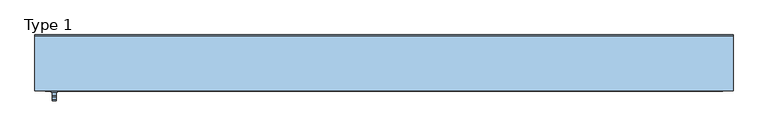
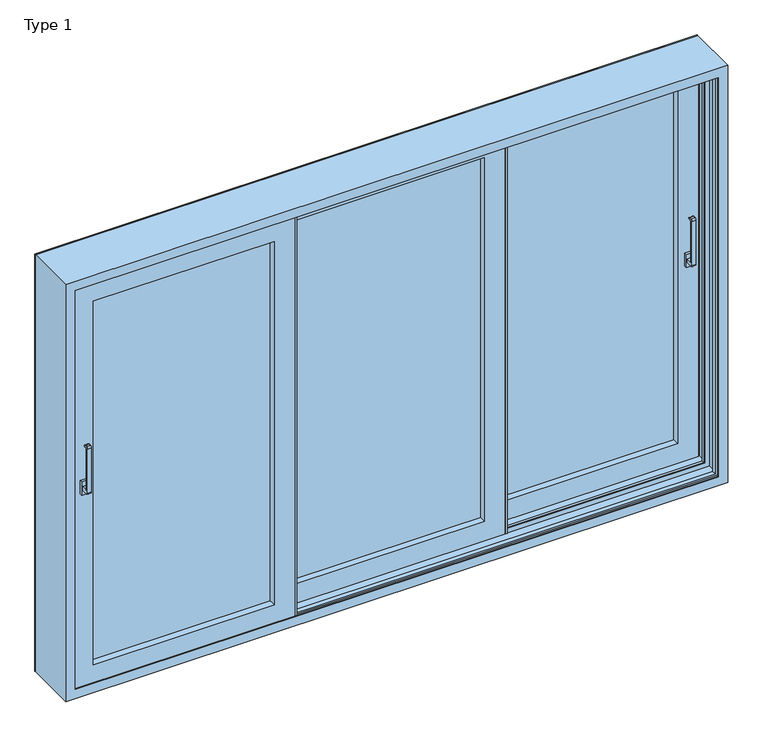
"""IFC4 building model written with IfcOpenShell, lengths in millimetres: window geometry, ETEM_ES70_Triple_Lift_Sliding : Type 1."""

from ifc_helpers import new_model, si_unit, point, frame, frame_2d, origin, place, context, project, spatial, polyline, circle_curve, trimmed, segment, composite_curve, outline, extrude, faceted_brep, source, transform, mapped, element, save


def type_1_9b2b722f(model_context):
    return source(origin(), model_context, "Body", "SolidModel", [
        extrude(outline(composite_curve([segment(polyline([(38.5008815, 1090.0), (6.9271967, 1090.0)]), True, "CONTINUOUS"), segment(trimmed(circle_curve(frame_2d((6.9271967, 1098.4263152)), 8.4263152), [point((6.9271967, 1090.0))], [point((-1.4991185, 1098.4263152))], False, "CARTESIAN"), True, "CONTINUOUS"), segment(polyline([(-1.4991185, 1098.4263152), (-1.4991185, 1331.5736848)]), True, "CONTINUOUS"), segment(trimmed(circle_curve(frame_2d((6.9271967, 1331.5736848)), 8.4263152), [point((-1.4991185, 1331.5736848))], [point((6.9271967, 1340.0))], False, "CARTESIAN"), True, "CONTINUOUS"), segment(polyline([(6.9271967, 1340.0), (18.5008815, 1340.0)]), True, "CONTINUOUS"), segment(trimmed(circle_curve(frame_2d((18.5008815, 1335.0)), 5.0), [point((18.5008815, 1340.0))], [point((18.5008815, 1330.0))], False, "CARTESIAN"), True, "CONTINUOUS"), segment(polyline([(18.5008815, 1330.0), (12.0364154, 1330.0)]), True, "CONTINUOUS"), segment(trimmed(circle_curve(frame_2d((12.0364154, 1326.4644661)), 3.5355339), [point((12.0364154, 1330.0))], [point((8.5008815, 1326.4644661))], True, "CARTESIAN"), True, "CONTINUOUS"), segment(polyline([(8.5008815, 1326.4644661), (8.5008815, 1113.5355339)]), True, "CONTINUOUS"), segment(trimmed(circle_curve(frame_2d((12.0364154, 1113.5355339)), 3.5355339), [point((8.5008815, 1113.5355339))], [point((12.0364154, 1110.0))], True, "CARTESIAN"), True, "CONTINUOUS"), segment(polyline([(12.0364154, 1110.0), (38.5008815, 1110.0), (38.5008815, 1090.0)]), True, "CONTINUOUS")], self_intersect=False)), frame((1548.5, 0.0, 0.0), z_axis=(1.0, 0.0, 0.0), x_axis=(0.0, 1.0, 0.0)), (0.0, 0.0, 1.0), 20.0),
        extrude(outline(polyline([(1543.5, 38.5008815), (1543.5, 51.5008815), (1573.5, 51.5008815), (1573.5, 38.5008815), (1543.5, 38.5008815)])), frame((0.0, 0.0, 1065.0), z_axis=(0.0, 0.0, 1.0), x_axis=(1.0, 0.0, 0.0)), (0.0, 0.0, 1.0), 70.0),
        extrude(outline(composite_curve([segment(polyline([(-141.4991185, 1090.0), (-173.0728033, 1090.0)]), True, "CONTINUOUS"), segment(trimmed(circle_curve(frame_2d((-173.0728033, 1098.4263152)), 8.4263152), [point((-173.0728033, 1090.0))], [point((-181.4991185, 1098.4263152))], False, "CARTESIAN"), True, "CONTINUOUS"), segment(polyline([(-181.4991185, 1098.4263152), (-181.4991185, 1331.5736848)]), True, "CONTINUOUS"), segment(trimmed(circle_curve(frame_2d((-173.0728033, 1331.5736848)), 8.4263152), [point((-181.4991185, 1331.5736848))], [point((-173.0728033, 1340.0))], False, "CARTESIAN"), True, "CONTINUOUS"), segment(polyline([(-173.0728033, 1340.0), (-161.4991185, 1340.0)]), True, "CONTINUOUS"), segment(trimmed(circle_curve(frame_2d((-161.4991185, 1335.0)), 5.0), [point((-161.4991185, 1340.0))], [point((-161.4991185, 1330.0))], False, "CARTESIAN"), True, "CONTINUOUS"), segment(polyline([(-161.4991185, 1330.0), (-167.9635846, 1330.0)]), True, "CONTINUOUS"), segment(trimmed(circle_curve(frame_2d((-167.9635846, 1326.4644661)), 3.5355339), [point((-167.9635846, 1330.0))], [point((-171.4991185, 1326.4644661))], True, "CARTESIAN"), True, "CONTINUOUS"), segment(polyline([(-171.4991185, 1326.4644661), (-171.4991185, 1113.5355339)]), True, "CONTINUOUS"), segment(trimmed(circle_curve(frame_2d((-167.9635846, 1113.5355339)), 3.5355339), [point((-171.4991185, 1113.5355339))], [point((-167.9635846, 1110.0))], True, "CARTESIAN"), True, "CONTINUOUS"), segment(polyline([(-167.9635846, 1110.0), (-141.4991185, 1110.0), (-141.4991185, 1090.0)]), True, "CONTINUOUS")], self_intersect=False)), frame((-1568.5, 0.0, 0.0), z_axis=(1.0, 0.0, 0.0), x_axis=(0.0, 1.0, 0.0)), (0.0, 0.0, 1.0), 20.0),
        extrude(outline(polyline([(-1573.5, -141.4991185), (-1573.5, -128.4991185), (-1543.5, -128.4991185), (-1543.5, -141.4991185), (-1573.5, -141.4991185)])), frame((0.0, 0.0, 1065.0), z_axis=(0.0, 0.0, 1.0), x_axis=(1.0, 0.0, 0.0)), (0.0, 0.0, 1.0), 70.0),
        faceted_brep([(1650.0, 122.9, 2200.0), (1650.0, -135.0998732, 2200.0), (1650.0, -135.0998732, 0.0), (1650.0, 122.9, 0.0), (-1650.0, -135.0998732, 2200.0), (-1650.0, -135.0998732, 0.0), (1602.0, -135.0998732, 48.0), (-1602.0, -135.0998732, 48.0), (-1602.0, -135.0998732, 2152.0), (1602.0, -135.0998732, 2152.0), (-1650.0, 122.9, 0.0), (-1650.0, 122.9, 2200.0), (1633.7, 122.9, 2183.7), (-1633.7, 122.9, 2183.7), (-1633.7, 122.9, 16.3), (1633.7, 122.9, 16.3), (1633.7, 91.0, 2183.7), (1633.7, 91.0, 16.3), (-1633.7, 91.0, 16.3), (-1633.7, 91.0, 2183.7), (1610.0, 91.0, 2160.0), (-1610.0, 91.0, 2160.0), (-1610.0, 91.0, 40.0), (1610.0, 91.0, 40.0), (1610.0, 105.0, 2160.0), (1610.0, 105.0, 40.0), (-1610.0, 105.0, 40.0), (-1610.0, 105.0, 2160.0), (1602.0, 105.0, 2152.0), (-1602.0, 105.0, 2152.0), (-1602.0, 105.0, 48.0), (1602.0, 105.0, 48.0), (1602.0, 82.0, 2152.0), (1602.0, 82.0, 48.0), (-1602.0, 82.0, 48.0), (1633.7, 82.0, 2183.7), (-1633.7, 82.0, 2183.7), (-1633.7, 82.0, 16.3), (1633.7, 82.0, 16.3), (-1602.0, 82.0, 2152.0), (1633.7, -88.9998732, 2183.7), (1633.7, -7.9998732, 2183.7), (1633.7, -7.9998732, 16.3), (1633.7, -88.9998732, 16.3), (-1633.7, -7.9998732, 16.3), (-1633.7, -88.9998732, 16.3), (-1633.7, -88.9998732, 2183.7), (1602.0, -88.9998732, 2152.0), (-1602.0, -88.9998732, 2152.0), (-1602.0, -88.9998732, 48.0), (1602.0, -88.9998732, 48.0), (1602.0, -111.9998732, 2152.0), (1602.0, -111.9998732, 48.0), (-1602.0, -111.9998732, 48.0), (1610.0, -111.9998732, 2160.0), (-1610.0, -111.9998732, 2160.0), (-1610.0, -111.9998732, 40.0), (1610.0, -111.9998732, 40.0), (-1602.0, -111.9998732, 2152.0), (1610.0, -97.9998732, 2160.0), (1610.0, -97.9998732, 40.0), (-1610.0, -97.9998732, 40.0), (1633.7, -97.9998732, 2183.7), (-1633.7, -97.9998732, 2183.7), (-1633.7, -97.9998732, 16.3), (1633.7, -97.9998732, 16.3), (-1610.0, -97.9998732, 2160.0), (1633.7, -131.2998732, 2183.7), (1633.7, -131.2998732, 16.3), (-1633.7, -131.2998732, 16.3), (-1633.7, -131.2998732, 2183.7), (1602.0, -131.2998732, 2152.0), (-1602.0, -131.2998732, 2152.0), (-1602.0, -131.2998732, 48.0), (1602.0, -131.2998732, 48.0), (-1633.7, -7.9998732, 2183.7), (1607.4, -7.9998732, 42.6), (-1607.4, -7.9998732, 42.6), (-1607.4, -7.9998732, 2157.4), (1607.4, -7.9998732, 2157.4), (-1633.7, 1.0001268, 16.3), (-1633.7, 1.0001268, 2183.7), (1633.7, 1.0001268, 16.3), (1633.7, 1.0001268, 2183.7), (1607.4, 1.0001268, 2157.4), (-1607.4, 1.0001268, 2157.4), (-1607.4, 1.0001268, 42.6), (1607.4, 1.0001268, 42.6), (1607.4, 2.5001268, 2157.4), (1607.4, 2.5001268, 42.6), (-1607.4, 2.5001268, 42.6), (-1607.4, 2.5001268, 2157.4), (1602.0, 2.5001268, 2152.0), (-1602.0, 2.5001268, 2152.0), (-1602.0, 2.5001268, 48.0), (1602.0, 2.5001268, 48.0), (1602.0, -9.4998732, 2152.0), (1602.0, -9.4998732, 48.0), (-1602.0, -9.4998732, 48.0), (1607.4, -9.4998732, 2157.4), (-1607.4, -9.4998732, 2157.4), (-1607.4, -9.4998732, 42.6), (1607.4, -9.4998732, 42.6), (-1602.0, -9.4998732, 2152.0)], [[[0, 1, 2, 3]], [[1, 4, 5, 2], [6, 7, 8, 9]], [[3, 2, 5, 10]], [[3, 10, 11, 0], [12, 13, 14, 15]], [[16, 12, 15, 17]], [[17, 15, 14, 18]], [[17, 18, 19, 16], [20, 21, 22, 23]], [[24, 20, 23, 25]], [[25, 23, 22, 26]], [[25, 26, 27, 24], [28, 29, 30, 31]], [[32, 28, 31, 33]], [[33, 31, 30, 34]], [[35, 36, 37, 38], [33, 34, 39, 32]], [[40, 41, 42, 43]], [[43, 42, 44, 45]], [[43, 45, 46, 40], [47, 48, 49, 50]], [[51, 47, 50, 52]], [[52, 50, 49, 53]], [[54, 55, 56, 57], [52, 53, 58, 51]], [[59, 54, 57, 60]], [[60, 57, 56, 61]], [[62, 63, 64, 65], [60, 61, 66, 59]], [[67, 62, 65, 68]], [[68, 65, 64, 69]], [[68, 69, 70, 67], [71, 72, 73, 74]], [[9, 71, 74, 6]], [[6, 74, 73, 7]], [[10, 5, 4, 11]], [[18, 14, 13, 19]], [[26, 22, 21, 27]], [[34, 30, 29, 39]], [[45, 44, 75, 46]], [[53, 49, 48, 58]], [[61, 56, 55, 66]], [[69, 64, 63, 70]], [[7, 73, 72, 8]], [[11, 4, 1, 0]], [[19, 13, 12, 16]], [[27, 21, 20, 24]], [[39, 29, 28, 32]], [[46, 75, 41, 40]], [[58, 48, 47, 51]], [[66, 55, 54, 59]], [[70, 63, 62, 67]], [[8, 72, 71, 9]], [[41, 75, 44, 42], [76, 77, 78, 79]], [[80, 37, 36, 81]], [[82, 38, 37, 80]], [[83, 35, 38, 82]], [[82, 80, 81, 83], [84, 85, 86, 87]], [[88, 84, 87, 89]], [[89, 87, 86, 90]], [[89, 90, 91, 88], [92, 93, 94, 95]], [[96, 92, 95, 97]], [[97, 95, 94, 98]], [[99, 100, 101, 102], [97, 98, 103, 96]], [[79, 99, 102, 76]], [[76, 102, 101, 77]], [[90, 86, 85, 91]], [[98, 94, 93, 103]], [[77, 101, 100, 78]], [[81, 36, 35, 83]], [[91, 85, 84, 88]], [[103, 93, 92, 96]], [[78, 100, 99, 79]]]),
        faceted_brep([(606.5, 121.5, 2058.0), (606.5, 51.5, 2058.0), (606.5, 51.5, 142.0), (606.5, 121.5, 142.0), (503.5, 51.5, 39.0), (1611.0, 51.5, 39.0), (1611.0, 51.5, 2161.0), (503.5, 51.5, 2161.0), (1508.0, 51.5, 2058.0), (1508.0, 51.5, 142.0), (1508.0, 121.5, 142.0), (503.5, 121.5, 2161.0), (1611.0, 121.5, 2161.0), (1611.0, 121.5, 39.0), (503.5, 121.5, 39.0), (1508.0, 121.5, 2058.0), (503.5, 109.1, 2161.0), (503.5, 109.1, 39.0), (1611.0, 109.1, 39.0), (1611.0, 109.1, 2161.0), (534.6, 109.1, 2129.9), (1579.9, 109.1, 2129.9), (1579.9, 109.1, 70.1), (534.6, 109.1, 70.1), (534.6, 63.9, 2129.9), (534.6, 63.9, 70.1), (1579.9, 63.9, 70.1), (503.5, 63.9, 2161.0), (1611.0, 63.9, 2161.0), (1611.0, 63.9, 39.0), (503.5, 63.9, 39.0), (1579.9, 63.9, 2129.9)], [[[0, 1, 2, 3]], [[4, 5, 6, 7], [1, 8, 9, 2]], [[3, 2, 9, 10]], [[11, 12, 13, 14], [3, 10, 15, 0]], [[16, 11, 14, 17]], [[17, 14, 13, 18]], [[17, 18, 19, 16], [20, 21, 22, 23]], [[24, 20, 23, 25]], [[25, 23, 22, 26]], [[27, 28, 29, 30], [25, 26, 31, 24]], [[7, 27, 30, 4]], [[4, 30, 29, 5]], [[10, 9, 8, 15]], [[18, 13, 12, 19]], [[26, 22, 21, 31]], [[5, 29, 28, 6]], [[15, 8, 1, 0]], [[19, 12, 11, 16]], [[31, 21, 20, 24]], [[6, 28, 27, 7]]]),
        extrude(outline(polyline([(606.5, -37.5499366), (596.5, -37.5499366), (596.5, 44.2500634), (606.5, 44.2500634), (606.5, -37.5499366)])), frame((0.0, 0.0, 39.0), z_axis=(0.0, 0.0, 1.0), x_axis=(1.0, 0.0, 0.0)), (0.0, 0.0, 1.0), 2122.0),
        extrude(outline(polyline([(493.5, 121.5), (503.5, 121.5), (503.5, 39.7), (493.5, 39.7), (493.5, 121.5)])), frame((0.0, 0.0, 39.0), z_axis=(0.0, 0.0, 1.0), x_axis=(1.0, 0.0, 0.0)), (0.0, 0.0, 1.0), 2122.0),
        extrude(outline(polyline([(606.5, 113.5022684), (1508.0, 113.5022684), (1508.0, 107.5022684), (606.5, 107.5022684), (606.5, 113.5022684)])), frame((0.0, 0.0, 142.0), z_axis=(0.0, 0.0, 1.0), x_axis=(1.0, 0.0, 0.0)), (0.0, 0.0, 1.0), 1916.0),
        extrude(outline(polyline([(-493.5, 23.5008859), (493.5, 23.5008859), (493.5, 17.5008859), (-493.5, 17.5008859), (-493.5, 23.5008859)])), frame((0.0, 0.0, 141.9749999), z_axis=(0.0, 0.0, 1.0), x_axis=(1.0, 0.0, 0.0)), (0.0, 0.0, 1.0), 1916.0500002),
        extrude(outline(polyline([(606.5, 91.5022684), (1508.0, 91.5022684), (1508.0, 85.5022684), (606.5, 85.5022684), (606.5, 91.5022684)])), frame((0.0, 0.0, 142.0), z_axis=(0.0, 0.0, 1.0), x_axis=(1.0, 0.0, 0.0)), (0.0, 0.0, 1.0), 1916.0),
        extrude(outline(polyline([(-493.5, 1.5008859), (493.5, 1.5008859), (493.5, -4.4991141), (-493.5, -4.4991141), (-493.5, 1.5008859)])), frame((0.0, 0.0, 141.9749999), z_axis=(0.0, 0.0, 1.0), x_axis=(1.0, 0.0, 0.0)), (0.0, 0.0, 1.0), 1916.0500002),
        faceted_brep([(-503.5, -116.0991185, 2161.0), (-503.5, -128.4991185, 2161.0), (-503.5, -128.4991185, 39.0), (-503.5, -116.0991185, 39.0), (-1611.0, -128.4991185, 39.0), (-1611.0, -116.0991185, 39.0), (-1611.0, -128.4991185, 2161.0), (-1508.0250001, -128.4991185, 141.9749999), (-1508.0250001, -128.4991185, 2058.0250001), (-606.4749999, -128.4991185, 2058.0250001), (-606.4749999, -128.4991185, 141.9749999), (-1611.0, -116.0991185, 2161.0), (-534.5749999, -116.0991185, 70.0749999), (-534.5749999, -116.0991185, 2129.9250001), (-1579.9250001, -116.0991185, 2129.9250001), (-1579.9250001, -116.0991185, 70.0749999), (-534.5749999, -70.8991185, 2129.9250001), (-534.5749999, -70.8991185, 70.0749999), (-1579.9250001, -70.8991185, 70.0749999), (-1579.9250001, -70.8991185, 2129.9250001), (-503.5, -70.8991185, 39.0), (-503.5, -70.8991185, 2161.0), (-1611.0, -70.8991185, 2161.0), (-1611.0, -70.8991185, 39.0), (-503.5, -58.4991185, 2161.0), (-503.5, -58.4991185, 39.0), (-1611.0, -58.4991185, 39.0), (-1611.0, -58.4991185, 2161.0), (-606.4749999, -58.4991185, 141.9749999), (-606.4749999, -58.4991185, 2058.0250001), (-1508.0250001, -58.4991185, 2058.0250001), (-1508.0250001, -58.4991185, 141.9749999)], [[[0, 1, 2, 3]], [[3, 2, 4, 5]], [[2, 1, 6, 4], [7, 8, 9, 10]], [[5, 4, 6, 11]], [[5, 11, 0, 3], [12, 13, 14, 15]], [[16, 13, 12, 17]], [[17, 12, 15, 18]], [[18, 15, 14, 19]], [[20, 21, 22, 23], [18, 19, 16, 17]], [[24, 21, 20, 25]], [[25, 20, 23, 26]], [[26, 23, 22, 27]], [[26, 27, 24, 25], [28, 29, 30, 31]], [[9, 29, 28, 10]], [[10, 28, 31, 7]], [[7, 31, 30, 8]], [[11, 6, 1, 0]], [[19, 14, 13, 16]], [[27, 22, 21, 24]], [[8, 30, 29, 9]]]),
        extrude(outline(polyline([(-493.5, -46.6991185), (-493.5, -128.4991185), (-503.5, -128.4991185), (-503.5, -46.6991185), (-493.5, -46.6991185)])), frame((0.0, 0.0, 39.0), z_axis=(0.0, 0.0, 1.0), x_axis=(1.0, 0.0, 0.0)), (0.0, 0.0, 1.0), 2122.0),
        extrude(outline(polyline([(-606.4, -49.3499366), (-606.4, 32.4500634), (-596.5, 32.4500634), (-596.5, -49.3499366), (-606.4, -49.3499366)])), frame((0.0, 0.0, 39.0), z_axis=(0.0, 0.0, 1.0), x_axis=(1.0, 0.0, 0.0)), (0.0, 0.0, 1.0), 2122.0),
        extrude(outline(polyline([(-1508.0, -66.4991141), (-606.5, -66.4991141), (-606.5, -72.4991141), (-1508.0, -72.4991141), (-1508.0, -66.4991141)])), frame((0.0, 0.0, 141.9749999), z_axis=(0.0, 0.0, 1.0), x_axis=(1.0, 0.0, 0.0)), (0.0, 0.0, 1.0), 1916.0500002),
        extrude(outline(polyline([(-1508.0, -88.4991141), (-606.5, -88.4991141), (-606.5, -94.4991141), (-1508.0, -94.4991141), (-1508.0, -88.4991141)])), frame((0.0, 0.0, 141.9749999), z_axis=(0.0, 0.0, 1.0), x_axis=(1.0, 0.0, 0.0)), (0.0, 0.0, 1.0), 1916.0500002),
        extrude(outline(polyline([(0.0, -1650.0), (0.0, -1602.0), (2152.0, -1602.0), (2152.0, 1602.0), (0.0, 1602.0), (0.0, 1650.0), (2200.0, 1650.0), (2200.0, -1650.0), (0.0, -1650.0)])), frame((0.0, 122.9, 0.0), z_axis=(0.0, 1.0, 0.0), x_axis=(0.0, 0.0, 1.0)), (0.0, 0.0, 1.0), 7.1),
        faceted_brep([(596.5, -25.1499366, 2161.0), (596.5, -37.5499366, 2161.0), (596.5, -37.5499366, 39.0), (596.5, -25.1499366, 39.0), (-596.5, -37.5499366, 39.0), (-596.5, -25.1499366, 39.0), (-596.5, -37.5499366, 2161.0), (-493.5250001, -37.5499366, 141.9749999), (-493.5250001, -37.5499366, 2058.0250001), (493.5250001, -37.5499366, 2058.0250001), (493.5250001, -37.5499366, 141.9749999), (-596.5, -25.1499366, 2161.0), (565.4250001, -25.1499366, 70.0749999), (565.4250001, -25.1499366, 2129.9250001), (-565.4250001, -25.1499366, 2129.9250001), (-565.4250001, -25.1499366, 70.0749999), (565.4250001, 20.0500634, 2129.9250001), (565.4250001, 20.0500634, 70.0749999), (-565.4250001, 20.0500634, 70.0749999), (-565.4250001, 20.0500634, 2129.9250001), (596.5, 20.0500634, 39.0), (596.5, 20.0500634, 2161.0), (-596.5, 20.0500634, 2161.0), (-596.5, 20.0500634, 39.0), (596.5, 32.4500634, 2161.0), (596.5, 32.4500634, 39.0), (-596.5, 32.4500634, 39.0), (-596.5, 32.4500634, 2161.0), (493.5250001, 32.4500634, 141.9749999), (493.5250001, 32.4500634, 2058.0250001), (-493.5250001, 32.4500634, 2058.0250001), (-493.5250001, 32.4500634, 141.9749999)], [[[0, 1, 2, 3]], [[3, 2, 4, 5]], [[2, 1, 6, 4], [7, 8, 9, 10]], [[5, 4, 6, 11]], [[5, 11, 0, 3], [12, 13, 14, 15]], [[16, 13, 12, 17]], [[17, 12, 15, 18]], [[18, 15, 14, 19]], [[20, 21, 22, 23], [18, 19, 16, 17]], [[24, 21, 20, 25]], [[25, 20, 23, 26]], [[26, 23, 22, 27]], [[26, 27, 24, 25], [28, 29, 30, 31]], [[9, 29, 28, 10]], [[10, 28, 31, 7]], [[7, 31, 30, 8]], [[11, 6, 1, 0]], [[19, 14, 13, 16]], [[27, 22, 21, 24]], [[8, 30, 29, 9]]]),
    ])


if __name__ == "__main__":
    model = new_model("IFC4")
    model_context = context("Model", 3, world=origin())
    ifc_project = project(units=[si_unit("LENGTHUNIT", "METRE", prefix="MILLI")], contexts=[model_context])
    site = spatial("IfcSite", under=ifc_project)
    building = spatial("IfcBuilding", under=site)
    placement = place(None, origin())
    type_1_shape = type_1_9b2b722f(model_context)
    element("IfcWindow", 1, ObjectType="ETEM_ES70_Triple_Lift_Sliding : Type 1", at=placement, inside=building, context=model_context, shape_type="MappedRepresentation", body=[
        mapped(type_1_shape, transform((0.0, 0.0, 0.0), x_axis=(1.0, 0.0, 0.0), y_axis=(0.0, 1.0, 0.0), z_axis=(0.0, 0.0, 1.0))),
    ])
    save(model, "model.ifc")
